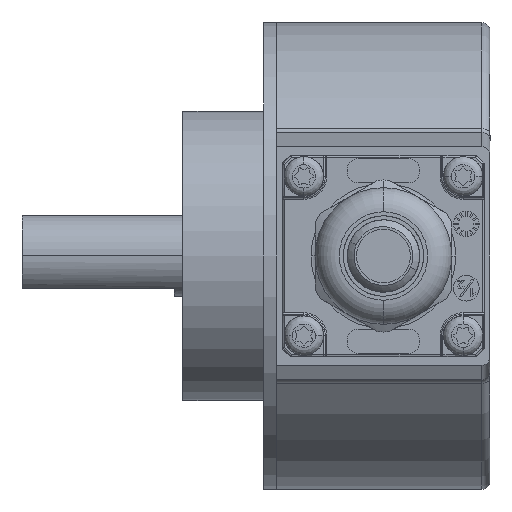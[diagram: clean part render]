
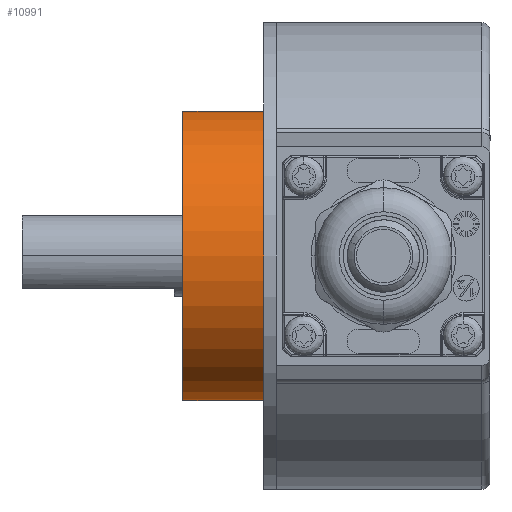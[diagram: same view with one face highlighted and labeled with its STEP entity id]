
A CAD part, front view. The second image highlights one B-rep face of the part: STEP entity #10991.
In plain terms, the highlighted cylindrical face has radius 18 mm (diameter 36 mm), a partial arc.
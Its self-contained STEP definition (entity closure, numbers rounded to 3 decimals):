
#1123 = CARTESIAN_POINT ( 'NONE',  ( -3.622, 25.423, -18. ) ) ;
#1328 = DIRECTION ( 'NONE',  ( -1., 0., 0. ) ) ;
#3013 = EDGE_CURVE ( 'NONE', #9576, #3309, #12958, .T. ) ;
#3125 = LINE ( 'NONE', #12326, #14537 ) ;
#3304 = CARTESIAN_POINT ( 'NONE',  ( 6.428, 25.423, 0. ) ) ;
#3309 = VERTEX_POINT ( 'NONE', #5019 ) ;
#3611 = CARTESIAN_POINT ( 'NONE',  ( 6.428, 25.423, -18. ) ) ;
#4390 = CARTESIAN_POINT ( 'NONE',  ( 8.068, 25.423, 0. ) ) ;
#4571 = FACE_OUTER_BOUND ( 'NONE', #13589, .T. ) ;
#4595 = VECTOR ( 'NONE', #1328, 1000. ) ;
#5019 = CARTESIAN_POINT ( 'NONE',  ( -3.622, 25.423, 18. ) ) ;
#7015 = EDGE_CURVE ( 'NONE', #7193, #3309, #7901, .T. ) ;
#7046 = AXIS2_PLACEMENT_3D ( 'NONE', #4390, #11265, #15286 ) ;
#7049 = DIRECTION ( 'NONE',  ( 0., 0., 1. ) ) ;
#7133 = DIRECTION ( 'NONE',  ( -1., 0., 0. ) ) ;
#7142 = DIRECTION ( 'NONE',  ( -1., 0., 0. ) ) ;
#7166 = CYLINDRICAL_SURFACE ( 'NONE', #7046, 18. ) ;
#7193 = VERTEX_POINT ( 'NONE', #13531 ) ;
#7619 = DIRECTION ( 'NONE',  ( 0., 0., 1. ) ) ;
#7795 = CARTESIAN_POINT ( 'NONE',  ( -3.622, 25.423, 0. ) ) ;
#7901 = LINE ( 'NONE', #8080, #4595 ) ;
#8080 = CARTESIAN_POINT ( 'NONE',  ( 8.068, 25.423, 18. ) ) ;
#8592 = EDGE_CURVE ( 'NONE', #13610, #7193, #13074, .T. ) ;
#8784 = AXIS2_PLACEMENT_3D ( 'NONE', #3304, #7142, #7049 ) ;
#9572 = ORIENTED_EDGE ( 'NONE', *, *, #7015, .T. ) ;
#9576 = VERTEX_POINT ( 'NONE', #1123 ) ;
#10493 = ORIENTED_EDGE ( 'NONE', *, *, #3013, .F. ) ;
#10744 = DIRECTION ( 'NONE',  ( -1., 0., 0. ) ) ;
#10991 = ADVANCED_FACE ( 'NONE', ( #4571 ), #7166, .T. ) ;
#11265 = DIRECTION ( 'NONE',  ( -1., 0., 0. ) ) ;
#12326 = CARTESIAN_POINT ( 'NONE',  ( 8.068, 25.423, -18. ) ) ;
#12958 = CIRCLE ( 'NONE', #14661, 18. ) ;
#13074 = CIRCLE ( 'NONE', #8784, 18. ) ;
#13531 = CARTESIAN_POINT ( 'NONE',  ( 6.428, 25.423, 18. ) ) ;
#13589 = EDGE_LOOP ( 'NONE', ( #15818, #16553, #9572, #10493 ) ) ;
#13610 = VERTEX_POINT ( 'NONE', #3611 ) ;
#14537 = VECTOR ( 'NONE', #7133, 1000. ) ;
#14661 = AXIS2_PLACEMENT_3D ( 'NONE', #7795, #10744, #7619 ) ;
#14964 = EDGE_CURVE ( 'NONE', #13610, #9576, #3125, .T. ) ;
#15286 = DIRECTION ( 'NONE',  ( 0., 0., 1. ) ) ;
#15818 = ORIENTED_EDGE ( 'NONE', *, *, #14964, .F. ) ;
#16553 = ORIENTED_EDGE ( 'NONE', *, *, #8592, .T. ) ;
